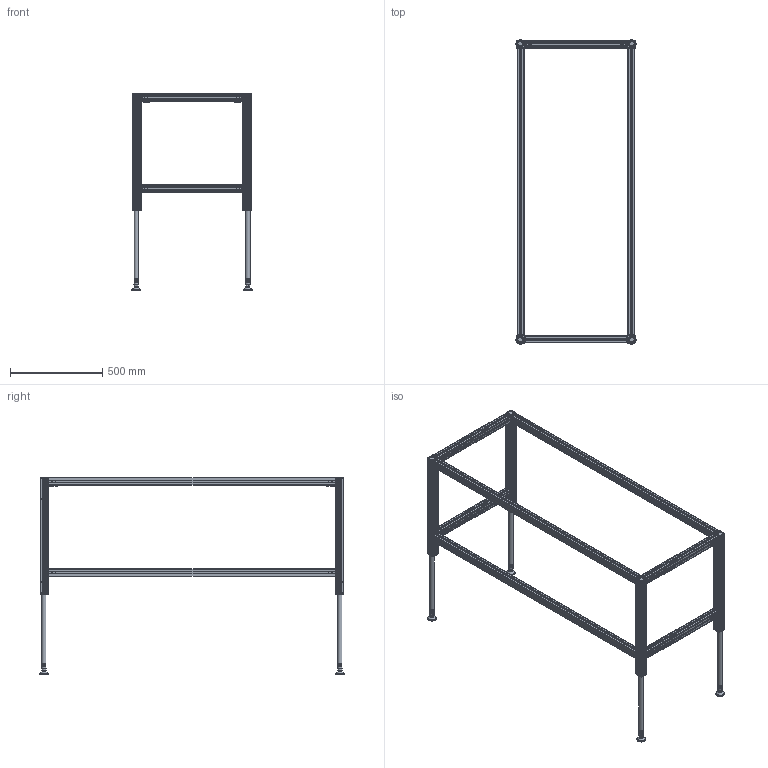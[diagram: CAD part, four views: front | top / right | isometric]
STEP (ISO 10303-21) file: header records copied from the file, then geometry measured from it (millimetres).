
FILE_DESCRIPTION(/* description */ ('Unknown'),/* implementation_level */ '2;1');
FILE_NAME(/* name */ '108.00443_ausgefahren',/* time_stamp */ '2019-08-07T14:17:50+02:00',/* author */ ('Unknown'),/* organization */ ('Unknown'),/* preprocessor_version */ 'ST-DEVELOPER v16.7',/* originating_system */ 'DEX',/* authorisation */ $);
FILE_SCHEMA (('AUTOMOTIVE_DESIGN {1 0 10303 214 3 1 1}'));
Length unit declared in the file: millimetre
Products named in the file (34): 108.00443; 115.00104; 119.00194; 142.00210; 115.00100; 119.00190; 306.00454_oa_0; 142.00014; 119.00224; 122.00005; 142.00020; 113.00002_70mm; 124.00125; 128.00040; 106.00424_oa_1; 109.00404_oa_2; 115.00008_oa_3; 123.00104; 125.00051; 306.00454_oa_4; 106.00424_oa_5; 109.00404_oa_6; 115.00008_oa_7; 306.00454_oa_8; 106.00424_oa_9; 109.00404_oa_10; 115.00008_oa_11; 306.00454_oa_12; 106.00424_oa_13; 109.00404_oa_14; 115.00008_oa_15; 113.00006; 113.00052_ohne Mutter; Mutter M10
Assembly tree (87 placements, depth 5):
  108.00443
    115.00104  x3
      119.00194
      142.00210
    115.00100  x4
      119.00190
      142.00210
    306.00454_oa_0
      142.00014  x2
      119.00224
      122.00005
      142.00020  x4
      113.00002_70mm
      124.00125
      128.00040
      106.00424_oa_1
        109.00404_oa_2
          115.00008_oa_3
        123.00104
        125.00051
    306.00454_oa_4
      142.00014  x2
      119.00224
      122.00005
      142.00020  x4
      113.00002_70mm
      124.00125
      128.00040
      106.00424_oa_5
        109.00404_oa_6
          115.00008_oa_7
        123.00104
        125.00051
    306.00454_oa_8
      142.00014  x2
      119.00224
      122.00005
      142.00020  x4
      113.00002_70mm
      124.00125
      128.00040
      106.00424_oa_9
        109.00404_oa_10
          115.00008_oa_11
        123.00104
        125.00051
    306.00454_oa_12
      142.00014  x2
      119.00224
      122.00005
      142.00020  x4
      113.00002_70mm
      124.00125
      128.00040
      106.00424_oa_13
        109.00404_oa_14
          115.00008_oa_15
        123.00104
        125.00051
    113.00006  x4
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Bounding box: 650.82 x 1650.82 x 1065 mm (x, y, z)
Volume: 7603007.1 mm3; surface area: 4887553.6 mm2
Topology: 95 solids, 95 shells, 5997 faces, 16818 edges, 10833 vertices
Faces by surface type: plane 2644, cylinder 2607, cone 254, torus 190, bspline 176, sphere 126
Full cylindrical faces by diameter (mm): 2.2 x4, 2.5 x48, 3 x16, 4 x40, 5 x28, 6.647 x4, 7.8 x14, 8 x4, 8.376 x12, 9.5 x4, 10 x8, 11.3 x14, 11.5 x18, 12 x14, 12.2 x14, 13.5 x14, 13.7 x21, 15 x4, 16 x4, 17.3 x4, 18 x28, 18.1 x14, 19 x8, 20.8 x12, 21 x4, 24 x4, 25 x20, 29 x4, 30 x8, 35 x4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
Entity records: 48695 total; most frequent: CARTESIAN_POINT 10438, ORIENTED_EDGE 7762, DIRECTION 7718, EDGE_CURVE 3881, AXIS2_PLACEMENT_3D 2771, VERTEX_POINT 2576, LINE 2176, VECTOR 2176
